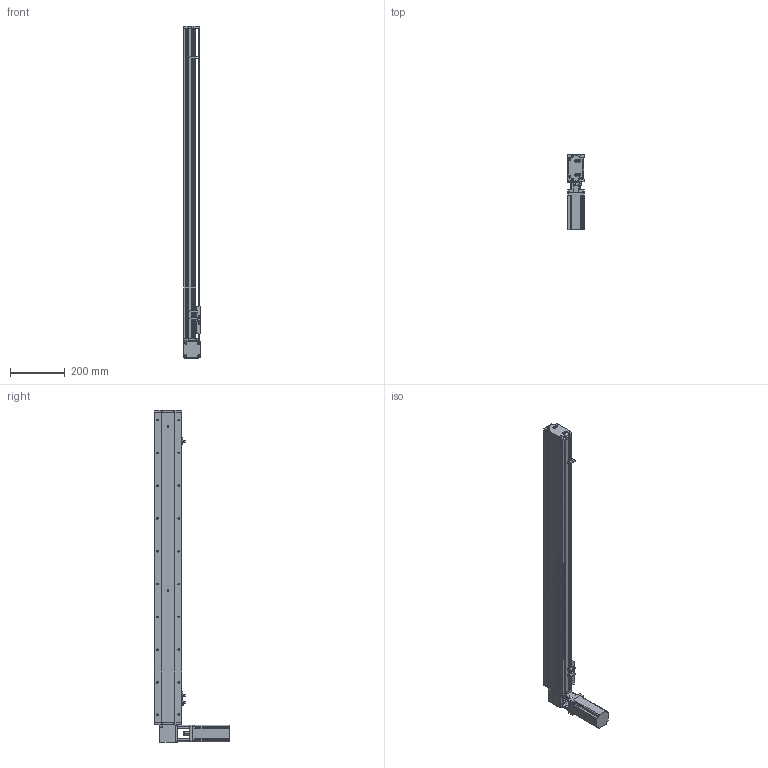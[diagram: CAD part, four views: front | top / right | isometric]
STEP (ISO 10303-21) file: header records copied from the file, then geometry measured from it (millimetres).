
FILE_DESCRIPTION (( 'STEP AP214' ), '1' );
FILE_NAME ('KSD100B-S950-MLT-CM.STEP', '2019-11-11T05:20:00', ( '微软用户' ), ( '微软中国' ), 'SwSTEP 2.0', 'SolidWorks 2014', '' );
FILE_SCHEMA (( 'AUTOMOTIVE_DESIGN' ));
Length unit declared in the file: millimetre
Products named in the file (12): 100遵鎮湛假蚾啣1 ; 100宽防尘板950行程-同步带; U倰嫖萇EEㄜSX672; 覜茼え100遵圉猾敕; 台达ECMA－C20604AS伺服电机; 100宽马达安装板同步带右; 100宽同步带安装板半封闭; 100宽马达安装板同步带; 100遵傷啣肮祭湍; 100宽底板半封闭同步带950行程; KSD100B-S950-MLT-CM; 100宽安装板同步带带电机座400W,86
Assembly tree (13 placements, depth 2):
  KSD100B-S950-MLT-CM
    100宽底板半封闭同步带950行程
    100遵傷啣肮祭湍
    100宽马达安装板同步带
    100宽同步带安装板半封闭
    100宽马达安装板同步带右
    台达ECMA－C20604AS伺服电机
    覜茼え100遵圉猾敕
    U倰嫖萇EEㄜSX672  x3
    100宽防尘板950行程-同步带
    100遵鎮湛假蚾啣1 
    100宽安装板同步带带电机座400W,86
Bounding box: 61 x 275 x 1215 mm (x, y, z)
Volume: 2761459.7 mm3; surface area: 895539.2 mm2
Topology: 14 solids, 14 shells, 1448 faces, 4069 edges, 2587 vertices
Faces by surface type: cylinder 738, plane 575, cone 135
Entity records: 50737 total; most frequent: CARTESIAN_POINT 10200, DIRECTION 7069, ORIENTED_EDGE 6774, EDGE_CURVE 3387, AXIS2_PLACEMENT_3D 2602, VERTEX_POINT 2211, VECTOR 1865, LINE 1865
